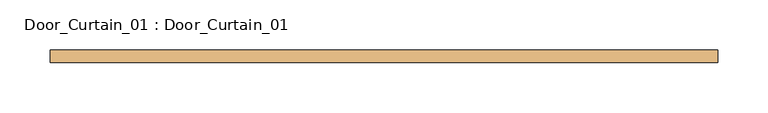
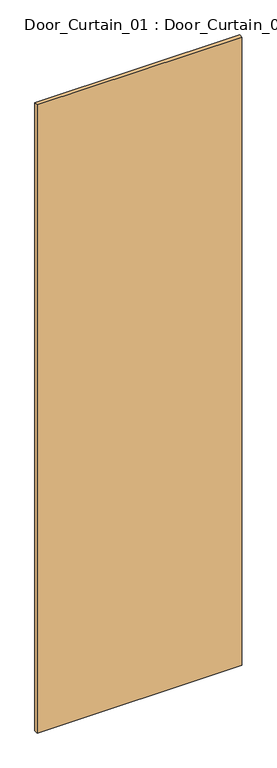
"""IFC4 building model written with IfcOpenShell, lengths in millimetres: door geometry, Door_Curtain_01 : Door_Curtain_01."""

from ifc_helpers import new_model, si_unit, origin, origin_with_axes, place, context, project, spatial, polyline, outline, extrude, source, transform, mapped, element, save


def door_curtain_01_door_curtain_01_a0cef468(model_context):
    return source(origin(), model_context, "Body", "SweptSolid", [
        extrude(outline(polyline([(333.7704865, 5.0), (333.7704865, -7.7), (-333.7704865, -7.7), (-333.7704865, 5.0), (333.7704865, 5.0)])), origin_with_axes(), (0.0, 0.0, 1.0), 2164.8011538),
    ])


if __name__ == "__main__":
    model = new_model("IFC4")
    model_context = context("Model", 3, world=origin())
    ifc_project = project(units=[si_unit("LENGTHUNIT", "METRE", prefix="MILLI")], contexts=[model_context])
    site = spatial("IfcSite", under=ifc_project)
    building = spatial("IfcBuilding", under=site)
    placement = place(None, origin())
    door_curtain_01_door_curtain_01_shape = door_curtain_01_door_curtain_01_a0cef468(model_context)
    element("IfcDoor", 1, ObjectType="Door_Curtain_01 : Door_Curtain_01", at=placement, inside=building, context=model_context, shape_type="MappedRepresentation", body=[
        mapped(door_curtain_01_door_curtain_01_shape, transform((0.0, 0.0, 0.0), x_axis=(1.0, 0.0, 0.0), y_axis=(0.0, 1.0, 0.0), z_axis=(0.0, 0.0, 1.0))),
    ])
    save(model, "model.ifc")
